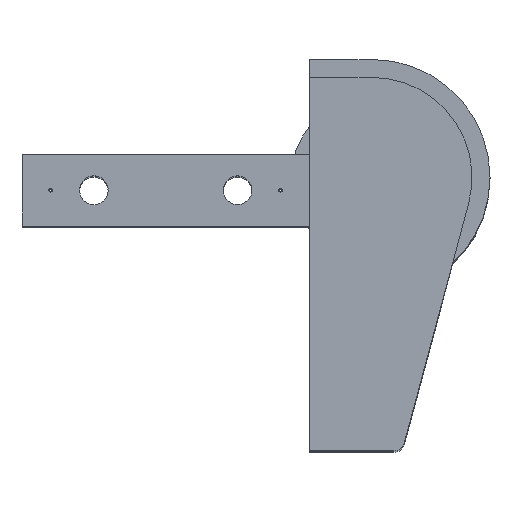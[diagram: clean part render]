
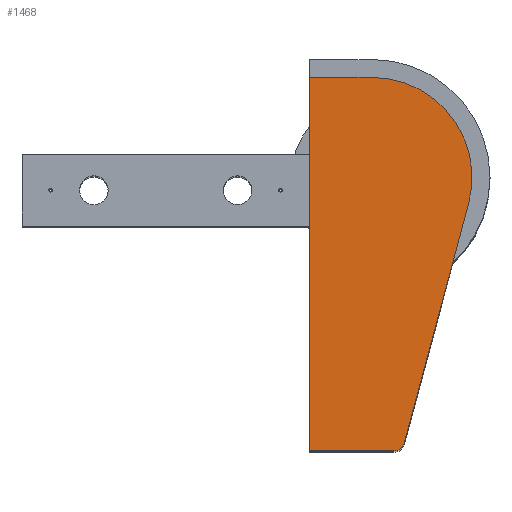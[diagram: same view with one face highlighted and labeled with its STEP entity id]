
A CAD part, top view. The second image highlights one B-rep face of the part: STEP entity #1468.
In plain terms, the highlighted planar face has unit normal (0, 0, 1).
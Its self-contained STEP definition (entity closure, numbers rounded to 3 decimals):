
#78 = VERTEX_POINT ( 'NONE', #2256 ) ;
#90 = ORIENTED_EDGE ( 'NONE', *, *, #1139, .T. ) ;
#141 = DIRECTION ( 'NONE',  ( 0.259, 0.966, 0. ) ) ;
#170 = ORIENTED_EDGE ( 'NONE', *, *, #1505, .T. ) ;
#203 = LINE ( 'NONE', #2066, #367 ) ;
#254 = EDGE_LOOP ( 'NONE', ( #1477, #523, #990, #1965, #90, #170 ) ) ;
#271 = DIRECTION ( 'NONE',  ( 1., 0., 0. ) ) ;
#321 = CARTESIAN_POINT ( 'NONE',  ( 3249.7, -109., 120. ) ) ;
#347 = CARTESIAN_POINT ( 'NONE',  ( 3273.261, -5., 120. ) ) ;
#367 = VECTOR ( 'NONE', #141, 1000. ) ;
#474 = CARTESIAN_POINT ( 'NONE',  ( 3276.159, -106.776, 120. ) ) ;
#484 = CARTESIAN_POINT ( 'NONE',  ( 3267.2, -5., 120. ) ) ;
#493 = DIRECTION ( 'NONE',  ( 1., 0., 0. ) ) ;
#523 = ORIENTED_EDGE ( 'NONE', *, *, #1981, .T. ) ;
#528 = VECTOR ( 'NONE', #1370, 1000. ) ;
#650 = EDGE_CURVE ( 'NONE', #1198, #1891, #1551, .T. ) ;
#667 = AXIS2_PLACEMENT_3D ( 'NONE', #1075, #1432, #760 ) ;
#668 = FACE_OUTER_BOUND ( 'NONE', #254, .T. ) ;
#760 = DIRECTION ( 'NONE',  ( -1., 0., 0. ) ) ;
#894 = DIRECTION ( 'NONE',  ( 0., 0., 1. ) ) ;
#930 = EDGE_CURVE ( 'NONE', #1970, #78, #1827, .T. ) ;
#990 = ORIENTED_EDGE ( 'NONE', *, *, #2019, .T. ) ;
#1008 = VECTOR ( 'NONE', #1577, 1000. ) ;
#1075 = CARTESIAN_POINT ( 'NONE',  ( 3273.261, -106., 120. ) ) ;
#1121 = CIRCLE ( 'NONE', #667, 3. ) ;
#1124 = CARTESIAN_POINT ( 'NONE',  ( 3294.053, -39.995, 120. ) ) ;
#1127 = PLANE ( 'NONE',  #1863 ) ;
#1139 = EDGE_CURVE ( 'NONE', #78, #1258, #1121, .T. ) ;
#1198 = VERTEX_POINT ( 'NONE', #1124 ) ;
#1200 = CARTESIAN_POINT ( 'NONE',  ( 3249.7, -46.4, 120. ) ) ;
#1258 = VERTEX_POINT ( 'NONE', #474 ) ;
#1366 = CARTESIAN_POINT ( 'NONE',  ( 3273.261, -106., 120. ) ) ;
#1370 = DIRECTION ( 'NONE',  ( 0., -1., 0. ) ) ;
#1374 = DIRECTION ( 'NONE',  ( 0., 0., 1. ) ) ;
#1432 = DIRECTION ( 'NONE',  ( 0., 0., 1. ) ) ;
#1436 = DIRECTION ( 'NONE',  ( -1., 0., 0. ) ) ;
#1468 = ADVANCED_FACE ( 'NONE', ( #668 ), #1127, .T. ) ;
#1477 = ORIENTED_EDGE ( 'NONE', *, *, #650, .T. ) ;
#1505 = EDGE_CURVE ( 'NONE', #1258, #1198, #203, .T. ) ;
#1551 = CIRCLE ( 'NONE', #1931, 27.8 ) ;
#1571 = CARTESIAN_POINT ( 'NONE',  ( 3249.7, -109., 120. ) ) ;
#1577 = DIRECTION ( 'NONE',  ( -1., 0., 0. ) ) ;
#1586 = VECTOR ( 'NONE', #493, 1000. ) ;
#1659 = LINE ( 'NONE', #347, #1008 ) ;
#1827 = LINE ( 'NONE', #321, #1586 ) ;
#1858 = CARTESIAN_POINT ( 'NONE',  ( 3249.7, -5., 120. ) ) ;
#1863 = AXIS2_PLACEMENT_3D ( 'NONE', #1366, #1374, #271 ) ;
#1891 = VERTEX_POINT ( 'NONE', #484 ) ;
#1931 = AXIS2_PLACEMENT_3D ( 'NONE', #1960, #894, #1436 ) ;
#1960 = CARTESIAN_POINT ( 'NONE',  ( 3267.2, -32.8, 120. ) ) ;
#1965 = ORIENTED_EDGE ( 'NONE', *, *, #930, .T. ) ;
#1970 = VERTEX_POINT ( 'NONE', #1571 ) ;
#1981 = EDGE_CURVE ( 'NONE', #1891, #2289, #1659, .T. ) ;
#1988 = LINE ( 'NONE', #1200, #528 ) ;
#2019 = EDGE_CURVE ( 'NONE', #2289, #1970, #1988, .T. ) ;
#2066 = CARTESIAN_POINT ( 'NONE',  ( 3276.159, -106.776, 120. ) ) ;
#2256 = CARTESIAN_POINT ( 'NONE',  ( 3273.261, -109., 120. ) ) ;
#2289 = VERTEX_POINT ( 'NONE', #1858 ) ;
